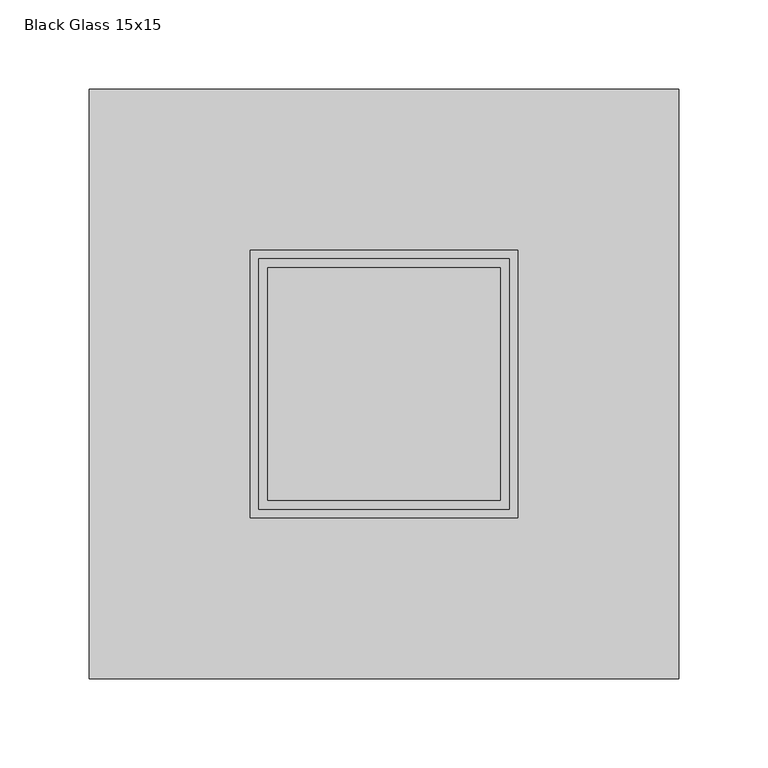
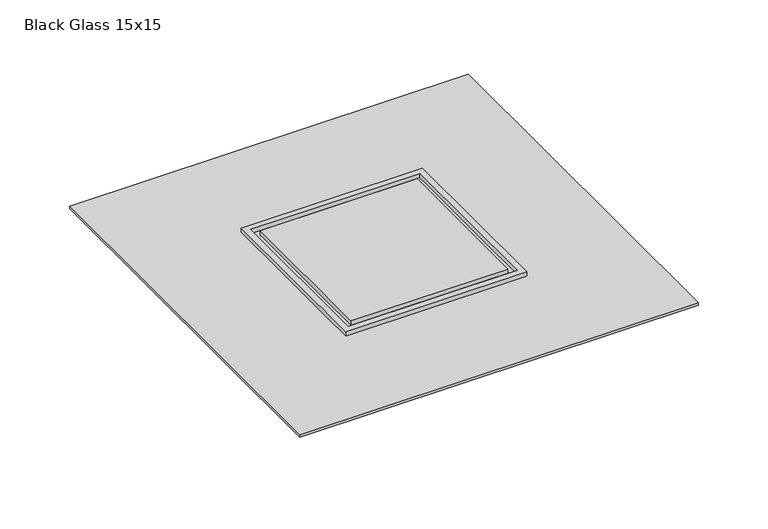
"""IFC4 building model written with IfcOpenShell, lengths in millimetres: sanitary terminal geometry, Z_DO_NOT_USE_NLRS_PF_52_UN_Aqua Jewels Quattro Complete_Easydrain : Black Glass 15x15."""

from ifc_helpers import new_model, si_unit, frame, origin, place, context, project, spatial, polyline, outline, extrude, source, transform, mapped, element, save


def black_glass_15x15_4ec12fde(model_context):
    return source(origin(), model_context, "Body", "SweptSolid", [
        extrude(outline(polyline([(170.0, 155.0), (170.0, -175.0), (-160.0, -175.0), (-160.0, 155.0), (170.0, 155.0)])), frame((0.0, 0.0, -6.0), z_axis=(0.0, 0.0, 1.0), x_axis=(1.0, 0.0, 0.0)), (0.0, 0.0, 1.0), 2.0),
        extrude(outline(polyline([(80.0, 65.0), (80.0, -85.0), (-70.0, -85.0), (-70.0, 65.0), (80.0, 65.0)])), frame((0.0, 0.0, -25.0), z_axis=(0.0, 0.0, 1.0), x_axis=(1.0, 0.0, 0.0)), (0.0, 0.0, 1.0), 20.0),
        extrude(outline(polyline([(80.0, 65.0), (80.0, -85.0), (-70.0, -85.0), (-70.0, 65.0), (80.0, 65.0)]), holes=[polyline([(75.0, 60.0), (-65.0, 60.0), (-65.0, -80.0), (75.0, -80.0), (75.0, 60.0)])]), frame((0.0, 0.0, -5.0), z_axis=(0.0, 0.0, 1.0), x_axis=(1.0, 0.0, 0.0)), (0.0, 0.0, 1.0), 5.0),
        extrude(outline(polyline([(70.0, 55.0), (70.0, -75.0), (-60.0, -75.0), (-60.0, 55.0), (70.0, 55.0)])), frame((0.0, 0.0, -5.0), z_axis=(0.0, 0.0, 1.0), x_axis=(1.0, 0.0, 0.0)), (0.0, 0.0, 1.0), 5.0),
        extrude(outline(polyline([(110.0, 95.0), (110.0, -115.0), (-100.0, -115.0), (-100.0, 95.0), (110.0, 95.0)])), frame((0.0, 0.0, -7.0), z_axis=(0.0, 0.0, 1.0), x_axis=(1.0, 0.0, 0.0)), (0.0, 0.0, 1.0), 2.0),
    ])


if __name__ == "__main__":
    model = new_model("IFC4")
    model_context = context("Model", 3, world=origin())
    ifc_project = project(units=[si_unit("LENGTHUNIT", "METRE", prefix="MILLI")], contexts=[model_context])
    site = spatial("IfcSite", under=ifc_project)
    building = spatial("IfcBuilding", under=site)
    placement = place(None, origin())
    black_glass_15x15_shape = black_glass_15x15_4ec12fde(model_context)
    element("IfcSanitaryTerminal", 1, ObjectType="Z_DO_NOT_USE_NLRS_PF_52_UN_Aqua Jewels Quattro Complete_Easydrain : Black Glass 15x15", at=placement, inside=building, context=model_context, shape_type="MappedRepresentation", body=[
        mapped(black_glass_15x15_shape, transform((0.0, 0.0, 0.0), x_axis=(1.0, 0.0, 0.0), y_axis=(0.0, 1.0, 0.0), z_axis=(0.0, 0.0, 1.0))),
    ])
    save(model, "model.ifc")
